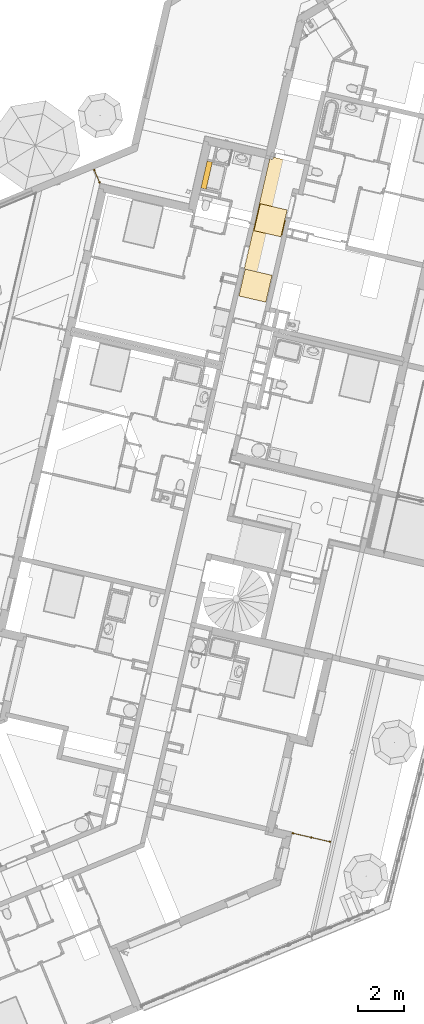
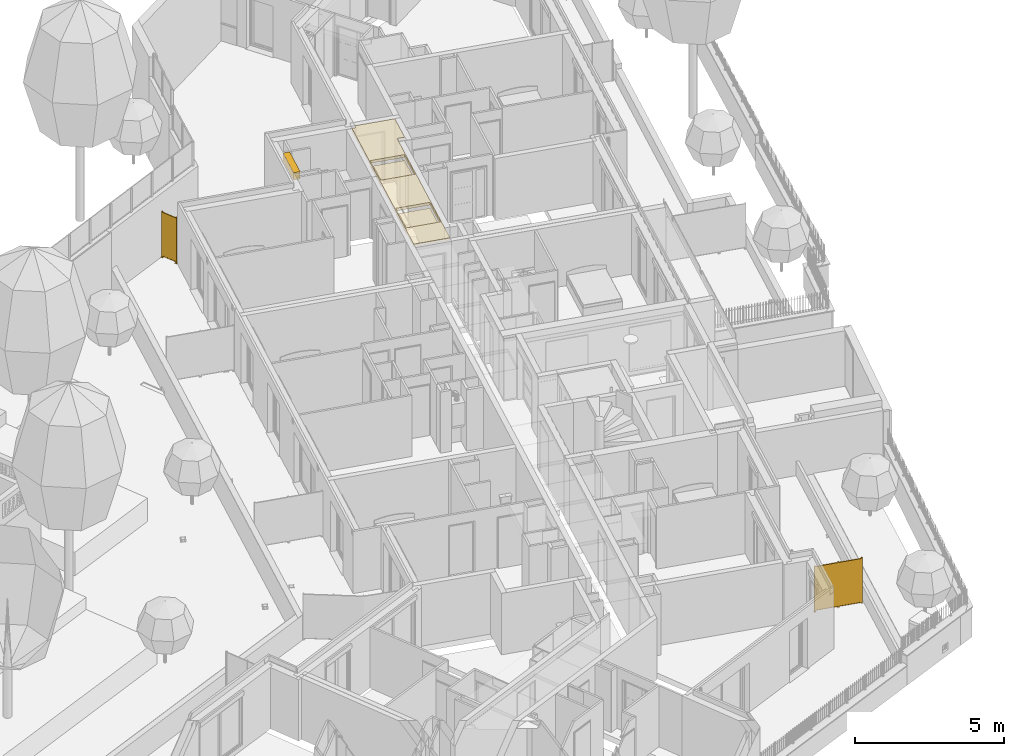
# One storey, part 73 of 119: 4 coverings, 2 railings, 2 openings.
"""IFC2X3 building model written with IfcOpenShell, lengths in metres."""

from ifc_helpers import new_model, entity, si_unit, converted_unit, derived_unit, money_unit, direction, frame, origin_with_axes, place, context, subcontext, project, spatial, faceted_brep, material, material_list, type_object, element, save


model = new_model("IFC2X3")

# Units and contexts
model_context = context("Model", 3, precision=1e-05, world=origin_with_axes(), true_north=direction((0.0, 1.0)))
body_context = subcontext(model_context, "Body", "Model", "MODEL_VIEW")
ifc_project = project(units=[si_unit("LENGTHUNIT", "METRE"), si_unit("AREAUNIT", "SQUARE_METRE"), si_unit("VOLUMEUNIT", "CUBIC_METRE"), converted_unit("PLANEANGLEUNIT", "DEGREE", entity("IfcPlaneAngleMeasure", 0.0174532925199), si_unit("PLANEANGLEUNIT", "RADIAN"), dimensions=[0, 0, 0, 0, 0, 0, 0]), si_unit("SOLIDANGLEUNIT", "STERADIAN"), money_unit("EUR"), converted_unit("TIMEUNIT", "Year", entity("IfcTimeMeasure", 31556926.0), si_unit("TIMEUNIT", "SECOND"), dimensions=[0, 0, 1, 0, 0, 0, 0]), si_unit("MASSUNIT", "GRAM", prefix="KILO"), si_unit("THERMODYNAMICTEMPERATUREUNIT", "DEGREE_CELSIUS"), si_unit("LUMINOUSINTENSITYUNIT", "LUMEN"), si_unit("ENERGYUNIT", "JOULE", prefix="MEGA"), derived_unit("THERMALCONDUCTANCEUNIT", [(si_unit("POWERUNIT", "WATT"), 1), (si_unit("LENGTHUNIT", "METRE"), -1), (si_unit("THERMODYNAMICTEMPERATUREUNIT", "KELVIN"), -1)]), derived_unit("SPECIFICHEATCAPACITYUNIT", [(si_unit("ENERGYUNIT", "JOULE"), 1), (si_unit("MASSUNIT", "GRAM", prefix="KILO"), -1), (si_unit("THERMODYNAMICTEMPERATUREUNIT", "KELVIN"), -1)]), derived_unit("MASSDENSITYUNIT", [(si_unit("MASSUNIT", "GRAM", prefix="KILO"), 1), (si_unit("VOLUMEUNIT", "CUBIC_METRE"), -1)])], contexts=[model_context])

# Site, building, storey
site_placement = place(None, origin_with_axes())
site = spatial("IfcSite", under=ifc_project, at=site_placement, Name="Site", CompositionType="ELEMENT")
building_placement = place(site_placement, origin_with_axes())
building = spatial("IfcBuilding", under=site, at=building_placement, Name="Bâtiment", CompositionType="ELEMENT")
storey_placement = place(building_placement, origin_with_axes())
storey = spatial("IfcBuildingStorey", under=building, at=storey_placement, Name="Rez-de-chaussée", CompositionType="ELEMENT", Elevation=0.0)

# Coverings
ifc_material_1 = material(Name="Finition int - Plaque de plâtre ACOUSTIQUE type GYPTONE")
covering_type_1 = type_object("IfcCoveringType", Name="Finition int - Plaque de plâtre ACOUSTIQUE type GYPTONE 15", PredefinedType="CEILING")
for number, where, z_axis, x_axis, name in (
    (1, (-8.75446935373, 8.31551809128, 2.272), (0.0, 0.0, 1.0), (1.0, 0.0, 0.0), "Dalle_004"),
    (2, (-9.40998347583, 5.47517898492, 2.272), (0.0, 0.0, 1.0), (1.0, 0.0, 0.0), "Dalle_004"),
):
    element("IfcCovering", number, at=place(storey_placement, frame(where, z_axis=z_axis, x_axis=x_axis)), inside=storey, type_object=covering_type_1, material=ifc_material_1, Name=name, PredefinedType="CEILING", context=body_context, shape_type="Brep", body=[
        faceted_brep([(0.0, 0.0, 0.0), (0.0, 0.0, -0.015), (1.16926481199, -0.269851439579, -0.015), (1.16926481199, -0.269851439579, 0.0), (0.269851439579, 1.16926481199, 0.0), (0.269851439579, 1.16926481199, -0.015), (1.43911625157, 0.899413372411, -0.015), (1.43911625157, 0.899413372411, 0.0)], [[[0, 1, 2, 3]], [[4, 5, 1, 0]], [[2, 1, 5, 6]], [[3, 2, 6, 7]], [[4, 0, 3, 7]], [[7, 6, 5, 4]]]),
    ])

# Covering, openings
ifc_material_2 = material(Name="Divers - Vide")
ifc_material_3 = material(Name="Finition int - Plaque de plâtre")
ifc_material_list_1 = material_list([ifc_material_2, ifc_material_3])
covering_type_2 = type_object("IfcCoveringType", Name="7 - Faux-plafond BA13  113", PredefinedType="CEILING")
covering_1_placement = place(storey_placement, frame((-8.07327489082, 11.431572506, 2.51), z_axis=(0.0, 0.0, 1.0), x_axis=(1.0, 0.0, 0.0)))
covering_1 = element("IfcCovering", 3, at=covering_1_placement, inside=storey, type_object=covering_type_2, material=ifc_material_list_1, Name="Dalle_004", PredefinedType="CEILING", context=body_context, shape_type="Brep", body=[
    faceted_brep([(0.124421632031, -0.0389778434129, -0.00044998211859), (-0.00224877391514, -0.00974392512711, -0.00044998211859), (-1.76298424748e-08, -7.63900072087e-08, -0.00044998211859), (0.126670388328, -0.0292339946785, -0.00044998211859), (0.151406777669, 0.0779486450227, -0.000449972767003), (0.161150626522, 0.0756998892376, -0.00044997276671), (0.134165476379, -0.0412266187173, -0.000449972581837), (-0.00224877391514, -0.00974392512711, -0.1), (0.134165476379, -0.0412266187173, -0.1), (-1.5931190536, -6.90297618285, -0.1), (-1.5931190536, -6.90297618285, 0.0), (0.0, 0.0, 0.0), (0.126670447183, -0.0292339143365, 0.0), (0.151406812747, 0.0779486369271, 0.0), (1.5230550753, -0.238610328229, 0.0), (1.5230550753, -0.238610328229, -0.1), (0.161150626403, 0.0756998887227, -0.1), (1.27090121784, -1.33557690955, -0.1), (1.01256032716, -1.27595511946, -0.1), (-0.355266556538, -7.18865671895, -0.1), (-0.411343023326, -1.94678960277, -0.1), (-0.681194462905, -3.11605441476, -0.1), (0.488070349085, -3.38590585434, -0.1), (0.757921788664, -2.21664104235, -0.1), (-1.06685714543, -4.78712870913, -0.1), (-1.33670858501, -5.95639352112, -0.1), (-0.167443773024, -6.2262449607, -0.1), (0.102407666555, -5.05698014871, -0.1), (-0.355266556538, -7.18865671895, 0.0), (1.01256032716, -1.27595511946, 0.0), (1.27090121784, -1.33557690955, 0.0), (0.488070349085, -3.38590585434, 0.0), (-0.681194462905, -3.11605441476, 0.0), (-0.411343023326, -1.94678960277, 0.0), (0.757921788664, -2.21664104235, 0.0), (-0.167443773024, -6.2262449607, 0.0), (-1.33670858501, -5.95639352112, 0.0), (-1.06685714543, -4.78712870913, 0.0), (0.102407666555, -5.05698014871, 0.0)], [[[0, 1, 2, 3, 4, 5, 6]], [[7, 1, 0, 6, 8]], [[1, 7, 9, 10, 11, 2]], [[3, 2, 11, 12]], [[4, 3, 12, 13]], [[5, 4, 13, 14, 15, 16]], [[5, 16, 8, 6]], [[7, 8, 16, 15, 17, 18, 19, 9], [20, 21, 22, 23], [24, 25, 26, 27]], [[9, 19, 28, 10]], [[12, 11, 10, 28, 29, 30, 14, 13], [31, 32, 33, 34], [35, 36, 37, 38]], [[17, 15, 14, 30]], [[18, 17, 30, 29]], [[19, 18, 29, 28]], [[21, 20, 33, 32]], [[22, 21, 32, 31]], [[23, 22, 31, 34]], [[20, 23, 34, 33]], [[25, 24, 37, 36]], [[26, 25, 36, 35]], [[27, 26, 35, 38]], [[24, 27, 38, 37]]]),
    faceted_brep([(0.0, 0.0, -0.1), (0.0, 0.0, -0.113), (-1.5931190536, -6.90297618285, -0.113), (-1.5931190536, -6.90297618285, -0.1), (0.126670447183, -0.0292339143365, -0.1), (0.126670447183, -0.0292339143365, -0.113), (0.151406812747, 0.0779486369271, -0.113), (1.5230550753, -0.238610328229, -0.113), (1.27090121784, -1.33557690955, -0.113), (1.01256032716, -1.27595511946, -0.113), (-0.355266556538, -7.18865671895, -0.113), (-0.411343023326, -1.94678960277, -0.113), (-0.681194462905, -3.11605441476, -0.113), (0.488070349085, -3.38590585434, -0.113), (0.757921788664, -2.21664104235, -0.113), (-1.06685714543, -4.78712870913, -0.113), (-1.33670858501, -5.95639352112, -0.113), (-0.167443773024, -6.2262449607, -0.113), (0.102407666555, -5.05698014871, -0.113), (-0.355266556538, -7.18865671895, -0.1), (1.01256032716, -1.27595511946, -0.1), (1.27090121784, -1.33557690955, -0.1), (1.5230550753, -0.238610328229, -0.1), (0.151406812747, 0.0779486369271, -0.1), (0.488070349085, -3.38590585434, -0.1), (-0.681194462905, -3.11605441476, -0.1), (-0.411343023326, -1.94678960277, -0.1), (0.757921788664, -2.21664104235, -0.1), (-0.167443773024, -6.2262449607, -0.1), (-1.33670858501, -5.95639352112, -0.1), (-1.06685714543, -4.78712870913, -0.1), (0.102407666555, -5.05698014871, -0.1)], [[[0, 1, 2, 3]], [[4, 5, 1, 0]], [[2, 1, 5, 6, 7, 8, 9, 10], [11, 12, 13, 14], [15, 16, 17, 18]], [[3, 2, 10, 19]], [[4, 0, 3, 19, 20, 21, 22, 23], [24, 25, 26, 27], [28, 29, 30, 31]], [[23, 6, 5, 4]], [[22, 7, 6, 23]], [[21, 8, 7, 22]], [[20, 9, 8, 21]], [[19, 10, 9, 20]], [[25, 12, 11, 26]], [[24, 13, 12, 25]], [[27, 14, 13, 24]], [[26, 11, 14, 27]], [[29, 16, 15, 30]], [[28, 17, 16, 29]], [[31, 18, 17, 28]], [[30, 15, 18, 31]]]),
])
opening_1_placement = place(covering_1_placement, origin_with_axes())
element("IfcOpeningElement", 4, at=opening_1_placement, cuts=covering_1, Name="Ouverture de dalle", context=body_context, shape_type="Brep", body=[
    faceted_brep([(-1.06685714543, -4.78712870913, -0.113), (-1.06685714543, -4.78712870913, 0.0), (0.102407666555, -5.05698014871, 0.0), (0.102407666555, -5.05698014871, -0.113), (-1.33670858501, -5.95639352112, 0.0), (-1.33670858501, -5.95639352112, -0.113), (-0.167443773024, -6.2262449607, 0.0), (-0.167443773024, -6.2262449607, -0.113)], [[[0, 1, 2, 3]], [[4, 1, 0, 5]], [[4, 6, 2, 1]], [[3, 2, 6, 7]], [[7, 5, 0, 3]], [[6, 4, 5, 7]]]),
])
opening_2_placement = place(covering_1_placement, origin_with_axes())
element("IfcOpeningElement", 5, at=opening_2_placement, cuts=covering_1, Name="Ouverture de dalle", context=body_context, shape_type="Brep", body=[
    faceted_brep([(-0.411343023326, -1.94678960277, -0.113), (-0.411343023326, -1.94678960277, 0.0), (0.757921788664, -2.21664104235, 0.0), (0.757921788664, -2.21664104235, -0.113), (-0.681194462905, -3.11605441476, 0.0), (-0.681194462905, -3.11605441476, -0.113), (0.488070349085, -3.38590585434, 0.0), (0.488070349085, -3.38590585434, -0.113)], [[[0, 1, 2, 3]], [[4, 1, 0, 5]], [[4, 6, 2, 1]], [[3, 2, 6, 7]], [[7, 5, 0, 3]], [[6, 4, 5, 7]]]),
])

# Covering
covering_type_3 = type_object("IfcCoveringType", Name="Finition int - Plaque de plâtre 300", PredefinedType="CEILING")
covering_2_placement = place(storey_placement, frame((-10.7922800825, 11.3468418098, 2.5), z_axis=(0.0, 0.0, 1.0), x_axis=(1.0, 0.0, 0.0)))
element("IfcCovering", 6, at=covering_2_placement, inside=storey, type_object=covering_type_3, material=ifc_material_3, Name="Dalle_003", PredefinedType="CEILING", context=body_context, shape_type="Brep", body=[
    faceted_brep([(-0.272100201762, -1.17900868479, 0.0), (0.0, 0.0, 0.0), (0.0, 0.0, -0.3), (-0.272100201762, -1.17900868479, -0.3), (-0.0431191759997, -1.23185459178, 0.0), (0.22898102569, -0.0528459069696, 0.0), (0.22898102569, -0.0528459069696, -0.3), (-0.0431191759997, -1.23185459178, -0.3)], [[[0, 1, 2, 3]], [[4, 5, 1, 0]], [[1, 5, 6, 2]], [[7, 3, 2, 6]], [[4, 0, 3, 7]], [[5, 4, 7, 6]]]),
])

# Railings
ifc_material_4 = material(Name="Métal - Acier")
ifc_material_5 = material(Name="Métal - Acier inoxidable")
ifc_material_6 = material(Name="Vitrage")
ifc_material_list_2 = material_list([ifc_material_4, ifc_material_4, ifc_material_5, ifc_material_6])
railing_type = type_object("IfcRailingType", Name="Type de garde-corps", PredefinedType="NOTDEFINED")
railing_1_placement = place(storey_placement, frame((-17.611215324, 11.1545381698, 0.2), z_axis=(0.0, 0.0, 1.0), x_axis=(1.0, 0.0, 0.0)))
element("IfcRailing", 7, at=railing_1_placement, inside=storey, type_object=railing_type, material=ifc_material_list_2, Name="Pare-vue acier laqué+verre dépoli H=190", PredefinedType="NOTDEFINED", context=body_context, shape_type="Brep", body=[
    faceted_brep([(1.93269743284, -0.215082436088, 0.01), (1.90512292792, -0.226899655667, 0.01), (1.90512292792, -0.226899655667, 1.88), (1.93269743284, -0.215082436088, 1.88), (1.93926272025, -0.217708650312, 0.01), (1.9024967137, -0.233464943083, 0.01), (1.88674042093, -0.196698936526, 0.01), (1.92350642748, -0.180942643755, 0.01), (1.89330570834, -0.199325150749, 0.01), (1.92088021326, -0.187507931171, 0.01), (1.89330570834, -0.199325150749, 1.88), (1.88674042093, -0.196698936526, 1.88), (1.9024967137, -0.233464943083, 1.88), (1.93926272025, -0.217708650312, 1.88), (1.92350642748, -0.180942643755, 1.88), (1.92088021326, -0.187507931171, 1.88)], [[[0, 1, 2, 3]], [[4, 5, 6, 7], [8, 1, 0, 9]], [[1, 8, 10, 2]], [[11, 12, 13, 14], [3, 2, 10, 15]], [[9, 0, 3, 15]], [[5, 4, 13, 12]], [[6, 5, 12, 11]], [[7, 6, 11, 14]], [[4, 7, 14, 13]], [[8, 9, 15, 10]]]),
    faceted_brep([(1.93401128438, -0.154681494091, 0.0), (1.93401128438, -0.154681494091, 0.01), (1.96552386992, -0.228213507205, 0.01), (1.96552386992, -0.228213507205, 0.0), (1.86047927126, -0.186194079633, 0.0), (1.86047927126, -0.186194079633, 0.01), (1.8919918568, -0.259726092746, 0.01), (1.8919918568, -0.259726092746, 0.0)], [[[0, 1, 2, 3]], [[4, 5, 1, 0]], [[1, 5, 6, 2]], [[3, 2, 6, 7]], [[0, 3, 7, 4]], [[7, 6, 5, 4]]]),
    faceted_brep([(2.16423576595, -0.755357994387, 0.01), (2.13666126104, -0.767175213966, 0.01), (2.13666126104, -0.767175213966, 1.88), (2.16423576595, -0.755357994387, 1.88), (2.17080105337, -0.757984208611, 0.01), (2.13403504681, -0.773740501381, 0.01), (2.11827875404, -0.736974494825, 0.01), (2.1550447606, -0.721218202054, 0.01), (2.12484404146, -0.739600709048, 0.01), (2.15241854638, -0.72778348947, 0.01), (2.12484404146, -0.739600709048, 1.88), (2.11827875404, -0.736974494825, 1.88), (2.13403504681, -0.773740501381, 1.88), (2.17080105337, -0.757984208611, 1.88), (2.1550447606, -0.721218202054, 1.88), (2.15241854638, -0.72778348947, 1.88)], [[[0, 1, 2, 3]], [[4, 5, 6, 7], [8, 1, 0, 9]], [[1, 8, 10, 2]], [[11, 12, 13, 14], [3, 2, 10, 15]], [[9, 0, 3, 15]], [[5, 4, 13, 12]], [[6, 5, 12, 11]], [[7, 6, 11, 14]], [[4, 7, 14, 13]], [[8, 9, 15, 10]]]),
    faceted_brep([(2.16554961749, -0.69495705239, 0.0), (2.16554961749, -0.69495705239, 0.01), (2.19706220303, -0.768489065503, 0.01), (2.19706220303, -0.768489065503, 0.0), (2.09201760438, -0.726469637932, 0.0), (2.09201760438, -0.726469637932, 0.01), (2.12353018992, -0.800001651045, 0.01), (2.12353018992, -0.800001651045, 0.0)], [[[0, 1, 2, 3]], [[4, 5, 1, 0]], [[1, 5, 6, 2]], [[3, 2, 6, 7]], [[0, 3, 7, 4]], [[7, 6, 5, 4]]]),
    faceted_brep([(2.15832715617, -0.741570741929, 0.05), (1.92678882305, -0.20129518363, 0.05), (1.92678882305, -0.20129518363, 1.85), (2.15832715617, -0.741570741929, 1.85), (1.93466696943, -0.219678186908, 1.83), (1.93466696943, -0.219678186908, 0.07), (2.15044900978, -0.72318773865, 0.07), (2.15044900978, -0.72318773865, 1.83), (1.89921431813, -0.213112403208, 0.05), (2.13075265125, -0.753387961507, 0.05), (1.89921431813, -0.213112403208, 1.85), (2.13075265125, -0.753387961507, 1.85), (1.90709246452, -0.231495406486, 0.07), (1.90709246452, -0.231495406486, 1.83), (2.12287450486, -0.735004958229, 0.07), (2.12287450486, -0.735004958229, 1.83)], [[[0, 1, 2, 3], [4, 5, 6, 7]], [[8, 1, 0, 9]], [[10, 2, 1, 8]], [[3, 2, 10, 11]], [[0, 3, 11, 9]], [[12, 5, 4, 13]], [[14, 6, 5, 12]], [[7, 6, 14, 15]], [[4, 7, 15, 13]], [[10, 8, 9, 11], [14, 12, 13, 15]]]),
    faceted_brep([(2.14585325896, -0.725157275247, 0.07), (1.93007121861, -0.221647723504, 0.07), (1.93007121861, -0.221647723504, 1.83), (2.14585325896, -0.725157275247, 1.83), (1.91168821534, -0.22952586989, 0.07), (2.12747025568, -0.733035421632, 0.07), (1.91168821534, -0.22952586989, 1.83), (2.12747025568, -0.733035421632, 1.83)], [[[0, 1, 2, 3]], [[4, 1, 0, 5]], [[6, 2, 1, 4]], [[3, 2, 6, 7]], [[0, 3, 7, 5]], [[6, 4, 5, 7]]]),
])
ifc_material_list_3 = material_list([ifc_material_4, ifc_material_4, ifc_material_5, ifc_material_6, ifc_material_4, ifc_material_5, ifc_material_6])
railing_2_placement = place(storey_placement, frame((-7.07060665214, -17.872944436, 0.139999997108), z_axis=(0.0, 0.0, 1.0), x_axis=(1.0, 0.0, 0.0)))
element("IfcRailing", 8, at=railing_2_placement, inside=storey, type_object=railing_type, material=ifc_material_list_3, Name="Pare-vue acier laqué+verre dépoli H=190", PredefinedType="NOTDEFINED", context=body_context, shape_type="Brep", body=[
    faceted_brep([(0.0179873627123, 0.0112452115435, 0.01), (0.0112452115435, -0.0179873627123, 0.01), (0.0112452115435, -0.0179873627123, 1.88), (0.0179873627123, 0.0112452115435, 1.88), (0.023983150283, 0.0149936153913, 0.01), (0.0149936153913, -0.023983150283, 0.01), (-0.023983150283, -0.0149936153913, 0.01), (-0.0149936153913, 0.023983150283, 0.01), (-0.0179873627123, -0.0112452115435, 0.01), (-0.0112452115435, 0.0179873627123, 0.01), (-0.0179873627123, -0.0112452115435, 1.88), (-0.023983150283, -0.0149936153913, 1.88), (0.0149936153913, -0.023983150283, 1.88), (0.023983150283, 0.0149936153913, 1.88), (-0.0149936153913, 0.023983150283, 1.88), (-0.0112452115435, 0.0179873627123, 1.88)], [[[0, 1, 2, 3]], [[4, 5, 6, 7], [8, 1, 0, 9]], [[1, 8, 10, 2]], [[11, 12, 13, 14], [3, 2, 10, 15]], [[9, 0, 3, 15]], [[5, 4, 13, 12]], [[6, 5, 12, 11]], [[7, 6, 11, 14]], [[4, 7, 14, 13]], [[8, 9, 15, 10]]]),
    faceted_brep([(-0.0299872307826, 0.047966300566, 0.0), (-0.0299872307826, 0.047966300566, 0.01), (0.047966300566, 0.0299872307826, 0.01), (0.047966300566, 0.0299872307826, 0.0), (-0.047966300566, -0.0299872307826, 0.0), (-0.047966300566, -0.0299872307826, 0.01), (0.0299872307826, -0.047966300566, 0.01), (0.0299872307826, -0.047966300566, 0.0)], [[[0, 1, 2, 3]], [[4, 5, 1, 0]], [[1, 5, 6, 2]], [[3, 2, 6, 7]], [[0, 3, 7, 4]], [[7, 6, 5, 4]]]),
    faceted_brep([(1.6288609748, -0.360283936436, 0.01), (1.62211882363, -0.389516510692, 0.01), (1.62211882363, -0.389516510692, 1.88), (1.6288609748, -0.360283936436, 1.88), (1.63485676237, -0.356535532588, 0.01), (1.62586722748, -0.395512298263, 0.01), (1.58689046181, -0.386522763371, 0.01), (1.5958799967, -0.347545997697, 0.01), (1.59288624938, -0.382774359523, 0.01), (1.59962840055, -0.353541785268, 0.01), (1.59288624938, -0.382774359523, 1.88), (1.58689046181, -0.386522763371, 1.88), (1.62586722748, -0.395512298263, 1.88), (1.63485676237, -0.356535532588, 1.88), (1.5958799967, -0.347545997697, 1.88), (1.59962840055, -0.353541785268, 1.88)], [[[0, 1, 2, 3]], [[4, 5, 6, 7], [8, 1, 0, 9]], [[1, 8, 10, 2]], [[11, 12, 13, 14], [3, 2, 10, 15]], [[9, 0, 3, 15]], [[5, 4, 13, 12]], [[6, 5, 12, 11]], [[7, 6, 11, 14]], [[4, 7, 14, 13]], [[8, 9, 15, 10]]]),
    faceted_brep([(1.58088638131, -0.323562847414, 0.0), (1.58088638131, -0.323562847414, 0.01), (1.65883991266, -0.341541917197, 0.01), (1.65883991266, -0.341541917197, 0.0), (1.56290731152, -0.401516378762, 0.0), (1.56290731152, -0.401516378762, 0.01), (1.64086084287, -0.419495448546, 0.01), (1.64086084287, -0.419495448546, 0.0)], [[[0, 1, 2, 3]], [[4, 5, 1, 0]], [[1, 5, 6, 2]], [[3, 2, 6, 7]], [[0, 3, 7, 4]], [[7, 6, 5, 4]]]),
    faceted_brep([(0.808807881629, -0.171148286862, 0.05), (0.00337107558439, 0.0146162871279, 0.05), (0.00337107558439, 0.0146162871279, 1.85), (0.808807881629, -0.171148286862, 1.85), (0.0228594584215, 0.010121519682, 1.83), (0.0228594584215, 0.010121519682, 0.07), (0.789319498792, -0.166653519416, 0.07), (0.789319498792, -0.166653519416, 1.83), (-0.00337107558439, -0.0146162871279, 0.05), (0.80206573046, -0.200380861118, 0.05), (-0.00337107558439, -0.0146162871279, 1.85), (0.80206573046, -0.200380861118, 1.85), (0.0161173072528, -0.0191110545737, 0.07), (0.0161173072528, -0.0191110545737, 1.83), (0.782577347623, -0.195886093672, 0.07), (0.782577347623, -0.195886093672, 1.83)], [[[0, 1, 2, 3], [4, 5, 6, 7]], [[8, 1, 0, 9]], [[10, 2, 1, 8]], [[3, 2, 10, 11]], [[0, 3, 11, 9]], [[12, 5, 4, 13]], [[14, 6, 5, 12]], [[7, 6, 14, 15]], [[4, 7, 15, 13]], [[10, 8, 9, 11], [14, 12, 13, 15]]]),
    faceted_brep([(0.788195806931, -0.171525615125, 0.07), (0.0217357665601, 0.00524942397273, 0.07), (0.0217357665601, 0.00524942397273, 1.83), (0.788195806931, -0.171525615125, 1.83), (0.0172409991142, -0.0142389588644, 0.07), (0.783701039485, -0.191013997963, 0.07), (0.0172409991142, -0.0142389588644, 1.83), (0.783701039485, -0.191013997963, 1.83)], [[[0, 1, 2, 3]], [[4, 1, 0, 5]], [[6, 2, 1, 4]], [[3, 2, 6, 7]], [[0, 3, 7, 5]], [[6, 4, 5, 7]]]),
    faceted_brep([(0.823424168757, -0.174519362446, 0.01), (0.816682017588, -0.203751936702, 0.01), (0.816682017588, -0.203751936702, 1.88), (0.823424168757, -0.174519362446, 1.88), (0.829419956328, -0.170770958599, 0.01), (0.820430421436, -0.209747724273, 0.01), (0.781453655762, -0.200758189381, 0.01), (0.790443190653, -0.161781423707, 0.01), (0.787449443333, -0.197009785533, 0.01), (0.794191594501, -0.167777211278, 0.01), (0.787449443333, -0.197009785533, 1.88), (0.781453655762, -0.200758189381, 1.88), (0.820430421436, -0.209747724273, 1.88), (0.829419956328, -0.170770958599, 1.88), (0.790443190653, -0.161781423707, 1.88), (0.794191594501, -0.167777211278, 1.88)], [[[0, 1, 2, 3]], [[4, 5, 6, 7], [8, 1, 0, 9]], [[1, 8, 10, 2]], [[11, 12, 13, 14], [3, 2, 10, 15]], [[9, 0, 3, 15]], [[5, 4, 13, 12]], [[6, 5, 12, 11]], [[7, 6, 11, 14]], [[4, 7, 14, 13]], [[8, 9, 15, 10]]]),
    faceted_brep([(0.775449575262, -0.137798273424, 0.0), (0.775449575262, -0.137798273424, 0.01), (0.853403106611, -0.155777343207, 0.01), (0.853403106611, -0.155777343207, 0.0), (0.757470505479, -0.215751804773, 0.0), (0.757470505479, -0.215751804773, 0.01), (0.835424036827, -0.233730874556, 0.01), (0.835424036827, -0.233730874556, 0.0)], [[[0, 1, 2, 3]], [[4, 5, 1, 0]], [[1, 5, 6, 2]], [[3, 2, 6, 7]], [[0, 3, 7, 4]], [[7, 6, 5, 4]]]),
    faceted_brep([(1.61424468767, -0.356912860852, 0.05), (0.808807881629, -0.171148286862, 0.05), (0.808807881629, -0.171148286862, 1.85), (1.61424468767, -0.356912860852, 1.85), (0.828296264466, -0.175643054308, 1.83), (0.828296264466, -0.175643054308, 0.07), (1.59475630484, -0.352418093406, 0.07), (1.59475630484, -0.352418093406, 1.83), (0.80206573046, -0.200380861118, 0.05), (1.60750253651, -0.386145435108, 0.05), (0.80206573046, -0.200380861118, 1.85), (1.60750253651, -0.386145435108, 1.85), (0.821554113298, -0.204875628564, 0.07), (0.821554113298, -0.204875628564, 1.83), (1.58801415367, -0.381650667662, 0.07), (1.58801415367, -0.381650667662, 1.83)], [[[0, 1, 2, 3], [4, 5, 6, 7]], [[8, 1, 0, 9]], [[10, 2, 1, 8]], [[3, 2, 10, 11]], [[0, 3, 11, 9]], [[12, 5, 4, 13]], [[14, 6, 5, 12]], [[7, 6, 14, 15]], [[4, 7, 15, 13]], [[10, 8, 9, 11], [14, 12, 13, 15]]]),
    faceted_brep([(1.59363261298, -0.357290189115, 0.07), (0.827172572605, -0.180515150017, 0.07), (0.827172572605, -0.180515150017, 1.83), (1.59363261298, -0.357290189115, 1.83), (0.822677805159, -0.200003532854, 0.07), (1.58913784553, -0.376778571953, 0.07), (0.822677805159, -0.200003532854, 1.83), (1.58913784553, -0.376778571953, 1.83)], [[[0, 1, 2, 3]], [[4, 1, 0, 5]], [[6, 2, 1, 4]], [[3, 2, 6, 7]], [[0, 3, 7, 5]], [[6, 4, 5, 7]]]),
])

save(model, "model.ifc")
